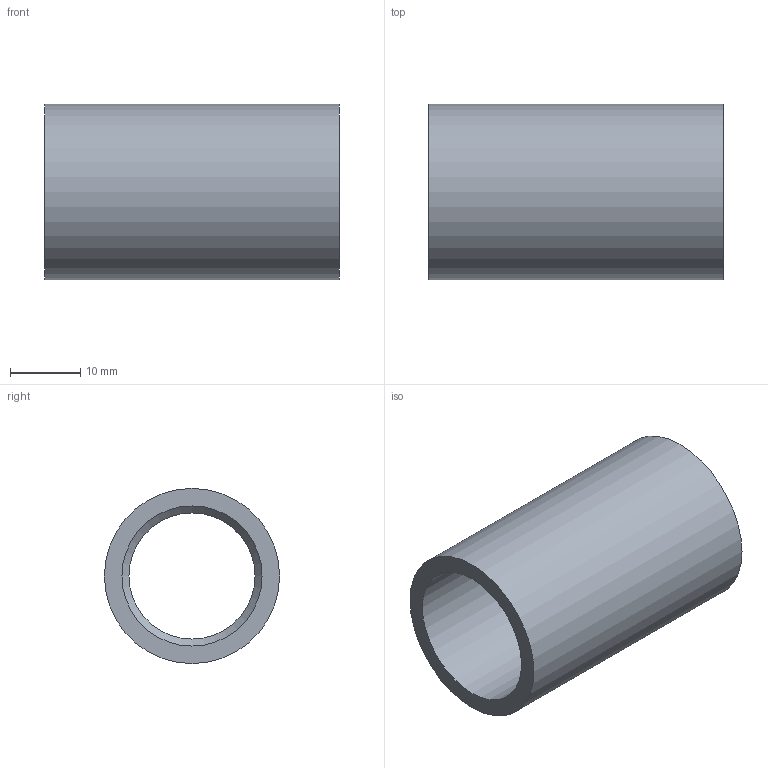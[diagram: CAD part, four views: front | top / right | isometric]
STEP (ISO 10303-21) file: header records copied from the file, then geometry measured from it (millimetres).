
FILE_DESCRIPTION(/* description */ ('PLASSON REDUCING SOCKET M.F.25(20)20 CEMENTED'),/* implementation_level */ '2;1');
FILE_NAME(/* name */ 'C:\Dropbox\KIMPROJECTS-Inventor\99-16-3568-Processing\PVC Catalog 2017\050200\050200025020.ipt.stp',/* time_stamp */ '2017-12-07T15:52:07+02:00',/* author */ ('KIM'),/* organization */ (''),/* preprocessor_version */ 'ST-DEVELOPER v15.6',/* originating_system */ 'Autodesk Inventor 2015',/* authorisation */ '');
FILE_SCHEMA (('AUTOMOTIVE_DESIGN { 1 0 10303 214 3 1 1 }'));
Length unit declared in the file: millimetre
Products named in the file (1): 050200025020
Bounding box: 42 x 25 x 25 mm (x, y, z)
Volume: 7989.6 mm3; surface area: 6315.8 mm2
Topology: 1 solids, 1 shells, 8 faces, 13 edges, 8 vertices
Faces by surface type: cylinder 4, plane 3, cone 1
Full cylindrical faces by diameter (mm): 18 x1, 20 x2, 25 x1
Entity records: 192 total; most frequent: DIRECTION 34, CARTESIAN_POINT 25, AXIS2_PLACEMENT_3D 17, EDGE_LOOP 16, ORIENTED_EDGE 16, FACE_BOUND 8, FACE_OUTER_BOUND 8, CIRCLE 8
